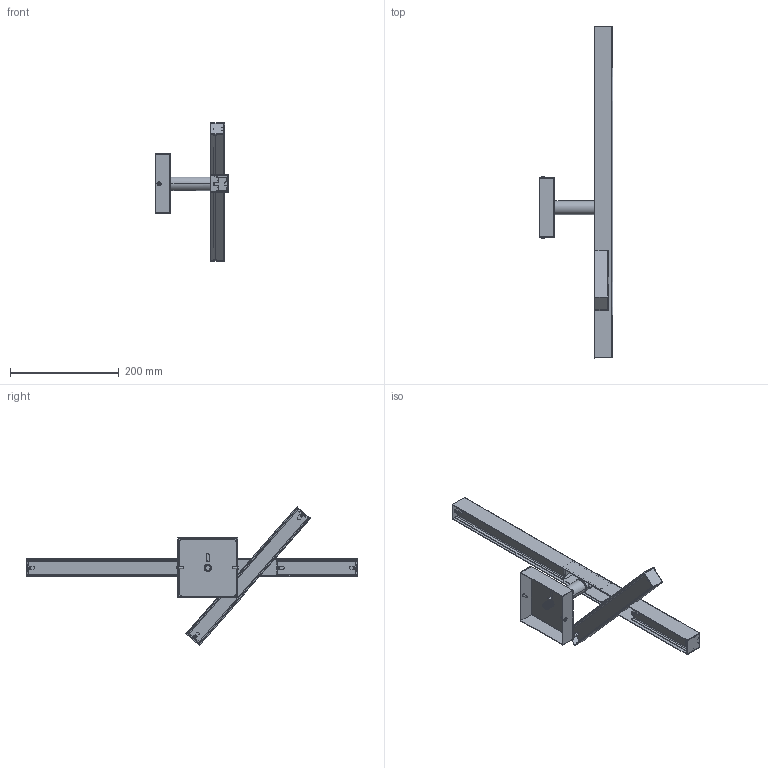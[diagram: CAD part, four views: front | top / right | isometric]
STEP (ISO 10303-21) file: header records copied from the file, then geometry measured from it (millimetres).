
FILE_DESCRIPTION(/* description */ (''),/* implementation_level */ '2;1');
FILE_NAME(/* name */ 'A064__.000',/* time_stamp */ '2024-08-30T14:33:33+02:00',/* author */ (''),/* organization */ (''),/* preprocessor_version */ 'ST-DEVELOPER v16.5',/* originating_system */ '',/* authorisation */ '');
FILE_SCHEMA (('AUTOMOTIVE_DESIGN'));
Length unit declared in the file: millimetre
Products named in the file (1): Document
Bounding box: 135.05 x 610 x 254.89 mm (x, y, z)
Volume: 234520.6 mm3; surface area: 345821.2 mm2
Topology: 14 solids, 14 shells, 870 faces, 2201 edges, 1331 vertices
Faces by surface type: plane 502, bspline 368
Entity records: 39410 total; most frequent: CARTESIAN_POINT 25693, ORIENTED_EDGE 4390, EDGE_CURVE 2195, B_SPLINE_CURVE_WITH_KNOTS 1476, VERTEX_POINT 1331, EDGE_LOOP 922, ADVANCED_FACE 870, FACE_OUTER_BOUND 870
